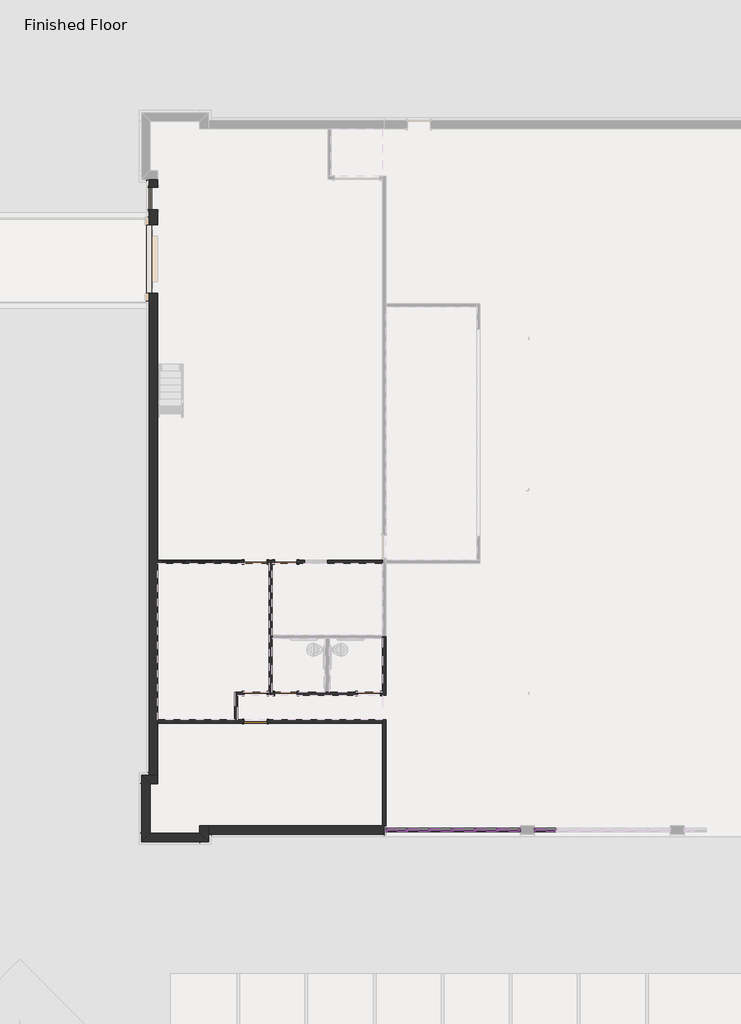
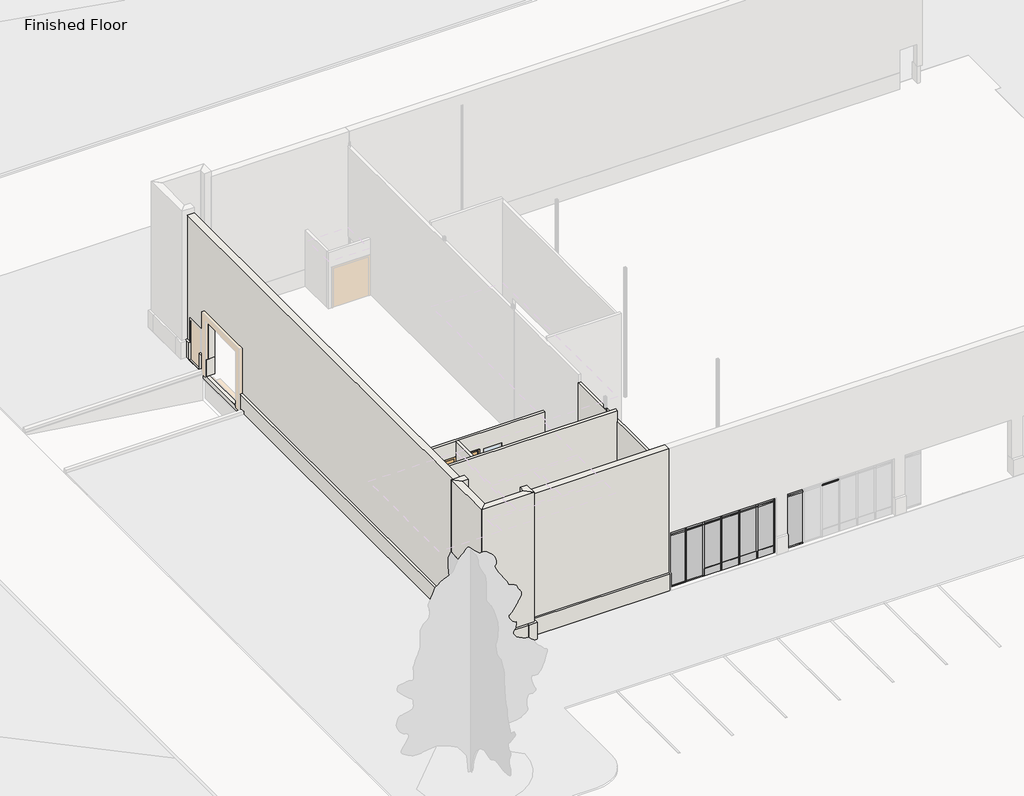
# One storey, part 1 of 7: 38 members, 21 walls, 14 plates, 6 doors, 3 windows.
"""IFC4 building model written with IfcOpenShell, lengths in millimetres."""

from ifc_helpers import new_model, si_unit, frame, origin, origin_with_axes, place, context, project, spatial, polyline, outline, extrude, faceted_brep, transform, mapped, element, save
from components import door_805e9a83, door_aa02eb04, door_9814c99b, member_d2e7e466, member_7db1855a, member_069002c8, member_a75f139a, member_8a16213d, member_a608d019, member_c17f1be2, member_ad567e07, member_f0d8dbf2, member_eb4c3d57, rectangular_mullion_tall_mullion_dc5872ae, rectangular_mullion_tall_mullion_643de06f, system_panel_glazed_00e77426, system_panel_glazed_d5ca8191, system_panel_glazed_9d8b6f53, system_panel_glazed_0eb5479c, system_panel_glazed_0c1d7574, system_panel_glazed_61942ae4, system_panel_glazed_5c8ca9a5, system_panel_glazed_895e459d, window_51f22951

model = new_model("IFC4")

# Units and contexts
model_context = context("Model", 3, world=origin())
ifc_project = project(units=[si_unit("LENGTHUNIT", "METRE", prefix="MILLI")], contexts=[model_context])

# Site, building, storey
site = spatial("IfcSite", under=ifc_project)
building = spatial("IfcBuilding", under=site)
storey = spatial("IfcBuildingStorey", under=building, Name="Finished Floor", Elevation=0.0)

# Doors
placement = place(None, origin())
door_shape = door_805e9a83(model_context)
element("IfcDoor", 1, ObjectType="Single-Flush : 36\" x 84\"", at=placement, inside=storey, context=model_context, shape_type="MappedRepresentation", body=[
    mapped(door_shape, transform((-16912.4352721, -8735.5875557, 0.0), x_axis=(-1.0, 0.0, 0.0), y_axis=(0.0, -1.0, 0.0), z_axis=(0.0, 0.0, 1.0))),
])
element("IfcDoor", 2, ObjectType="Single-Flush : 36\" x 84\"", at=placement, inside=storey, context=model_context, shape_type="MappedRepresentation", body=[
    mapped(door_shape, transform((-18131.6352721, -3439.6875557, 0.0), x_axis=(1.0, 0.0, 0.0), y_axis=(0.0, 1.0, 0.0), z_axis=(0.0, 0.0, 1.0))),
])
door_2_shape = door_aa02eb04(model_context)
element("IfcDoor", 3, ObjectType="Single-Flush : 36\" x 84\"", at=placement, inside=storey, context=model_context, shape_type="MappedRepresentation", body=[
    mapped(door_2_shape, transform((-13562.8102721, -8735.5875557, 0.0), x_axis=(1.0, 0.0, 0.0), y_axis=(0.0, 1.0, 0.0), z_axis=(0.0, 0.0, 1.0))),
])
element("IfcDoor", 4, ObjectType="Single-Flush : 36\" x 84\" 20Min", at=placement, inside=storey, context=model_context, shape_type="MappedRepresentation", body=[
    mapped(door_2_shape, transform((-18131.6352721, -8735.5875557, 0.0), x_axis=(1.0, 0.0, 0.0), y_axis=(0.0, 1.0, 0.0), z_axis=(0.0, 0.0, 1.0))),
])
element("IfcDoor", 5, ObjectType="Single-Flush : 36\" x 84\" 20Min", at=placement, inside=storey, context=model_context, shape_type="MappedRepresentation", body=[
    mapped(door_2_shape, transform((-16912.4352721, -3439.6875557, 0.0), x_axis=(-1.0, 0.0, 0.0), y_axis=(0.0, -1.0, 0.0), z_axis=(0.0, 0.0, 1.0))),
])
door_3_shape = door_9814c99b(model_context)
element("IfcDoor", 6, ObjectType="Single-Flush : 36\" x 84\" 20Min", at=placement, inside=storey, context=model_context, shape_type="MappedRepresentation", body=[
    mapped(door_3_shape, transform((-18131.6352721, -9862.7125557, 0.0), x_axis=(1.0, 0.0, 0.0), y_axis=(0.0, 1.0, 0.0), z_axis=(0.0, 0.0, 1.0))),
])

# Members
member_shape = member_d2e7e466(model_context)
element("IfcMember", 7, ObjectType="Rectangular Mullion : 2.5\" x 5\" rectangular", at=placement, inside=storey, context=model_context, shape_type="MappedRepresentation", body=[
    mapped(member_shape, transform((-9254.3352721, -14230.7188057, 3048.0), x_axis=(0.0, 0.0, 1.0), y_axis=(0.0, 1.0, 0.0), z_axis=(-1.0, 0.0, 0.0))),
])
element("IfcMember", 8, ObjectType="Rectangular Mullion : 2.5\" x 5\" rectangular", at=placement, inside=storey, context=model_context, shape_type="MappedRepresentation", body=[
    mapped(member_shape, transform((-10168.7352721, -14230.7188057, 3048.0), x_axis=(0.0, 0.0, 1.0), y_axis=(0.0, 1.0, 0.0), z_axis=(-1.0, 0.0, 0.0))),
])
element("IfcMember", 9, ObjectType="Rectangular Mullion : 2.5\" x 5\" rectangular", at=placement, inside=storey, context=model_context, shape_type="MappedRepresentation", body=[
    mapped(member_shape, transform((-11083.1352721, -14230.7188057, 3048.0), x_axis=(0.0, 0.0, 1.0), y_axis=(0.0, 1.0, 0.0), z_axis=(-1.0, 0.0, 0.0))),
])
element("IfcMember", 10, ObjectType="Rectangular Mullion : 2.5\" x 5\" rectangular", at=placement, inside=storey, context=model_context, shape_type="MappedRepresentation", body=[
    mapped(member_shape, transform((-11997.5352721, -14230.7188057, 3048.0), x_axis=(0.0, 0.0, 1.0), y_axis=(0.0, 1.0, 0.0), z_axis=(-1.0, 0.0, 0.0))),
])
member_2_shape = member_7db1855a(model_context)
element("IfcMember", 11, ObjectType="Rectangular Mullion : 2.5\" x 5\" rectangular", at=placement, inside=storey, context=model_context, shape_type="MappedRepresentation", body=[
    mapped(member_2_shape, transform((-9254.3352721, -14230.7188057, 2813.05), x_axis=(0.0, 0.0, 1.0), y_axis=(0.0, 1.0, 0.0), z_axis=(-1.0, 0.0, 0.0))),
])
element("IfcMember", 12, ObjectType="Rectangular Mullion : 2.5\" x 5\" rectangular", at=placement, inside=storey, context=model_context, shape_type="MappedRepresentation", body=[
    mapped(member_2_shape, transform((-10168.7352721, -14230.7188057, 2813.05), x_axis=(0.0, 0.0, 1.0), y_axis=(0.0, 1.0, 0.0), z_axis=(-1.0, 0.0, 0.0))),
])
element("IfcMember", 13, ObjectType="Rectangular Mullion : 2.5\" x 5\" rectangular", at=placement, inside=storey, context=model_context, shape_type="MappedRepresentation", body=[
    mapped(member_2_shape, transform((-11083.1352721, -14230.7188057, 2813.05), x_axis=(0.0, 0.0, 1.0), y_axis=(0.0, 1.0, 0.0), z_axis=(-1.0, 0.0, 0.0))),
])
element("IfcMember", 14, ObjectType="Rectangular Mullion : 2.5\" x 5\" rectangular", at=placement, inside=storey, context=model_context, shape_type="MappedRepresentation", body=[
    mapped(member_2_shape, transform((-5037.9352721, -14230.7188057, 2813.05), x_axis=(0.0, 0.0, 1.0), y_axis=(0.0, 1.0, 0.0), z_axis=(-1.0, 0.0, 0.0))),
])
element("IfcMember", 15, ObjectType="Rectangular Mullion : 2.5\" x 5\" rectangular", at=placement, inside=storey, context=model_context, shape_type="MappedRepresentation", body=[
    mapped(member_2_shape, transform((-11997.5352721, -14230.7188057, 2813.05), x_axis=(0.0, 0.0, 1.0), y_axis=(0.0, 1.0, 0.0), z_axis=(-1.0, 0.0, 0.0))),
])
element("IfcMember", 16, ObjectType="Rectangular Mullion : 2.5\" x 5\" rectangular", at=placement, inside=storey, context=model_context, shape_type="MappedRepresentation", body=[
    mapped(member_shape, transform((-11146.6352721, -14230.7188057, 0.0), x_axis=(0.0, 0.0, -1.0), y_axis=(0.0, 1.0, 0.0), z_axis=(1.0, 0.0, 0.0))),
])
member_3_shape = member_069002c8(model_context)
element("IfcMember", 17, ObjectType="Rectangular Mullion : 2.5\" x 5\" rectangular", at=placement, inside=storey, context=model_context, shape_type="MappedRepresentation", body=[
    mapped(member_3_shape, transform((-8371.6852721, -14230.7188057, 0.0), x_axis=(-1.0, 0.0, 0.0), y_axis=(0.0, 1.0, 0.0), z_axis=(0.0, 0.0, -1.0))),
])
element("IfcMember", 18, ObjectType="Rectangular Mullion : 2.5\" x 5\" rectangular", at=placement, inside=storey, context=model_context, shape_type="MappedRepresentation", body=[
    mapped(member_3_shape, transform((-9286.0852721, -14230.7188057, 0.0), x_axis=(-1.0, 0.0, 0.0), y_axis=(0.0, 1.0, 0.0), z_axis=(0.0, 0.0, -1.0))),
])
element("IfcMember", 19, ObjectType="Rectangular Mullion : 2.5\" x 5\" rectangular", at=placement, inside=storey, context=model_context, shape_type="MappedRepresentation", body=[
    mapped(member_3_shape, transform((-10200.4852721, -14230.7188057, 0.0), x_axis=(-1.0, 0.0, 0.0), y_axis=(0.0, 1.0, 0.0), z_axis=(0.0, 0.0, -1.0))),
])
element("IfcMember", 20, ObjectType="Rectangular Mullion : 2.5\" x 5\" rectangular", at=placement, inside=storey, context=model_context, shape_type="MappedRepresentation", body=[
    mapped(member_3_shape, transform((-11114.8852721, -14230.7188057, 0.0), x_axis=(-1.0, 0.0, 0.0), y_axis=(0.0, 1.0, 0.0), z_axis=(0.0, 0.0, -1.0))),
])
element("IfcMember", 21, ObjectType="Rectangular Mullion : 2.5\" x 5\" rectangular", at=placement, inside=storey, context=model_context, shape_type="MappedRepresentation", body=[
    mapped(member_3_shape, transform((-12029.2852721, -14230.7188057, 0.0), x_axis=(-1.0, 0.0, 0.0), y_axis=(0.0, 1.0, 0.0), z_axis=(0.0, 0.0, -1.0))),
])
member_4_shape = member_a75f139a(model_context)
element("IfcMember", 22, ObjectType="Rectangular Mullion : 2.5\" x 5\" rectangular", at=placement, inside=storey, context=model_context, shape_type="MappedRepresentation", body=[
    mapped(member_4_shape, transform((-8371.6852721, -14230.7188057, 2813.05), x_axis=(-1.0, 0.0, 0.0), y_axis=(0.0, 1.0, 0.0), z_axis=(0.0, 0.0, -1.0))),
])
element("IfcMember", 23, ObjectType="Rectangular Mullion : 2.5\" x 5\" rectangular", at=placement, inside=storey, context=model_context, shape_type="MappedRepresentation", body=[
    mapped(member_4_shape, transform((-9286.0852721, -14230.7188057, 2813.05), x_axis=(-1.0, 0.0, 0.0), y_axis=(0.0, 1.0, 0.0), z_axis=(0.0, 0.0, -1.0))),
])
element("IfcMember", 24, ObjectType="Rectangular Mullion : 2.5\" x 5\" rectangular", at=placement, inside=storey, context=model_context, shape_type="MappedRepresentation", body=[
    mapped(member_4_shape, transform((-10200.4852721, -14230.7188057, 2813.05), x_axis=(-1.0, 0.0, 0.0), y_axis=(0.0, 1.0, 0.0), z_axis=(0.0, 0.0, -1.0))),
])
element("IfcMember", 25, ObjectType="Rectangular Mullion : 2.5\" x 5\" rectangular", at=placement, inside=storey, context=model_context, shape_type="MappedRepresentation", body=[
    mapped(member_4_shape, transform((-11114.8852721, -14230.7188057, 2813.05), x_axis=(-1.0, 0.0, 0.0), y_axis=(0.0, 1.0, 0.0), z_axis=(0.0, 0.0, -1.0))),
])
element("IfcMember", 26, ObjectType="Rectangular Mullion : 2.5\" x 5\" rectangular", at=placement, inside=storey, context=model_context, shape_type="MappedRepresentation", body=[
    mapped(member_4_shape, transform((-12029.2852721, -14230.7188057, 2813.05), x_axis=(-1.0, 0.0, 0.0), y_axis=(0.0, 1.0, 0.0), z_axis=(0.0, 0.0, -1.0))),
])
member_5_shape = member_8a16213d(model_context)
element("IfcMember", 27, ObjectType="Rectangular Mullion : 2.5\" x 5\" rectangular", at=placement, inside=storey, context=model_context, shape_type="MappedRepresentation", body=[
    mapped(member_5_shape, transform((-12883.3602721, -14230.7188057, 0.0), x_axis=(-1.0, 0.0, 0.0), y_axis=(0.0, 1.0, 0.0), z_axis=(0.0, 0.0, -1.0))),
])
element("IfcMember", 28, ObjectType="Rectangular Mullion : 2.5\" x 5\" rectangular", at=placement, inside=storey, context=model_context, shape_type="MappedRepresentation", body=[
    mapped(member_5_shape, transform((-6898.4852721, -14230.7188057, 0.0), x_axis=(-1.0, 0.0, 0.0), y_axis=(0.0, 1.0, 0.0), z_axis=(0.0, 0.0, -1.0))),
])
member_6_shape = member_a608d019(model_context)
element("IfcMember", 29, ObjectType="Rectangular Mullion : 2.5\" x 5\" rectangular", at=placement, inside=storey, context=model_context, shape_type="MappedRepresentation", body=[
    mapped(member_6_shape, transform((-12883.3602721, -14230.7188057, 2813.05), x_axis=(-1.0, 0.0, 0.0), y_axis=(0.0, 1.0, 0.0), z_axis=(0.0, 0.0, -1.0))),
])
element("IfcMember", 30, ObjectType="Rectangular Mullion : 2.5\" x 5\" rectangular", at=placement, inside=storey, context=model_context, shape_type="MappedRepresentation", body=[
    mapped(member_6_shape, transform((-6898.4852721, -14230.7188057, 2813.05), x_axis=(-1.0, 0.0, 0.0), y_axis=(0.0, 1.0, 0.0), z_axis=(0.0, 0.0, -1.0))),
])
element("IfcMember", 31, ObjectType="Rectangular Mullion : 2.5\" x 5\" rectangular", at=placement, inside=storey, context=model_context, shape_type="MappedRepresentation", body=[
    mapped(member_6_shape, transform((-7457.2852721, -14230.7188057, 3048.0), x_axis=(1.0, 0.0, 0.0), y_axis=(0.0, 1.0, 0.0), z_axis=(0.0, 0.0, 1.0))),
])
element("IfcMember", 32, ObjectType="Rectangular Mullion : 2.5\" x 5\" rectangular", at=placement, inside=storey, context=model_context, shape_type="MappedRepresentation", body=[
    mapped(member_5_shape, transform((-7457.2852721, -14230.7188057, 2813.05), x_axis=(1.0, 0.0, 0.0), y_axis=(0.0, 1.0, 0.0), z_axis=(0.0, 0.0, 1.0))),
])
member_7_shape = member_c17f1be2(model_context)
element("IfcMember", 33, ObjectType="Rectangular Mullion : 2.5\" x 5\" rectangular", at=placement, inside=storey, context=model_context, shape_type="MappedRepresentation", body=[
    mapped(member_7_shape, transform((-8339.9352721, -14230.7188057, 3048.0), x_axis=(0.0, 0.0, 1.0), y_axis=(0.0, 1.0, 0.0), z_axis=(-1.0, 0.0, 0.0))),
])
element("IfcMember", 34, ObjectType="Rectangular Mullion : 2.5\" x 5\" rectangular", at=placement, inside=storey, context=model_context, shape_type="MappedRepresentation", body=[
    mapped(member_7_shape, transform((-6834.9852721, -14230.7188057, 3048.0), x_axis=(0.0, 0.0, 1.0), y_axis=(0.0, 1.0, 0.0), z_axis=(-1.0, 0.0, 0.0))),
])
member_8_shape = member_ad567e07(model_context)
element("IfcMember", 35, ObjectType="Rectangular Mullion : 2.5\" x 5\" rectangular", at=placement, inside=storey, context=model_context, shape_type="MappedRepresentation", body=[
    mapped(member_8_shape, transform((-8339.9352721, -14230.7188057, 2813.05), x_axis=(0.0, 0.0, 1.0), y_axis=(0.0, 1.0, 0.0), z_axis=(-1.0, 0.0, 0.0))),
])
element("IfcMember", 36, ObjectType="Rectangular Mullion : 2.5\" x 5\" rectangular", at=placement, inside=storey, context=model_context, shape_type="MappedRepresentation", body=[
    mapped(member_8_shape, transform((-6834.9852721, -14230.7188057, 2813.05), x_axis=(0.0, 0.0, 1.0), y_axis=(0.0, 1.0, 0.0), z_axis=(-1.0, 0.0, 0.0))),
])
element("IfcMember", 37, ObjectType="Rectangular Mullion : 2.5\" x 5\" rectangular", at=placement, inside=storey, context=model_context, shape_type="MappedRepresentation", body=[
    mapped(member_7_shape, transform((-6015.8352721, -14230.7188057, 0.0), x_axis=(0.0, 0.0, -1.0), y_axis=(0.0, 1.0, 0.0), z_axis=(1.0, 0.0, 0.0))),
])
member_9_shape = member_f0d8dbf2(model_context)
element("IfcMember", 38, ObjectType="Rectangular Mullion : 2.5\" x 5\" rectangular", at=placement, inside=storey, context=model_context, shape_type="MappedRepresentation", body=[
    mapped(member_9_shape, transform((-12819.8602721, -14230.7188057, 3048.0), x_axis=(0.0, 0.0, 1.0), y_axis=(0.0, 1.0, 0.0), z_axis=(-1.0, 0.0, 0.0))),
])
element("IfcMember", 39, ObjectType="Rectangular Mullion : 2.5\" x 5\" rectangular", at=placement, inside=storey, context=model_context, shape_type="MappedRepresentation", body=[
    mapped(member_9_shape, transform((-12061.0352721, -14230.7188057, 0.0), x_axis=(0.0, 0.0, -1.0), y_axis=(0.0, 1.0, 0.0), z_axis=(1.0, 0.0, 0.0))),
])
member_10_shape = member_eb4c3d57(model_context)
element("IfcMember", 40, ObjectType="Rectangular Mullion : 2.5\" x 5\" rectangular", at=placement, inside=storey, context=model_context, shape_type="MappedRepresentation", body=[
    mapped(member_10_shape, transform((-12819.8602721, -14230.7188057, 2813.05), x_axis=(0.0, 0.0, 1.0), y_axis=(0.0, 1.0, 0.0), z_axis=(-1.0, 0.0, 0.0))),
])
rectangular_mullion_tall_mullion_shape = rectangular_mullion_tall_mullion_dc5872ae(model_context)
element("IfcMember", 41, ObjectType="Rectangular Mullion : Tall Mullion", at=placement, inside=storey, context=model_context, shape_type="MappedRepresentation", body=[
    mapped(rectangular_mullion_tall_mullion_shape, transform((-8403.4352721, -14230.7188057, 0.0), x_axis=(0.0, 0.0, -1.0), y_axis=(0.0, 1.0, 0.0), z_axis=(1.0, 0.0, 0.0))),
])
element("IfcMember", 42, ObjectType="Rectangular Mullion : Tall Mullion", at=placement, inside=storey, context=model_context, shape_type="MappedRepresentation", body=[
    mapped(rectangular_mullion_tall_mullion_shape, transform((-9317.8352721, -14230.7188057, 0.0), x_axis=(0.0, 0.0, -1.0), y_axis=(0.0, 1.0, 0.0), z_axis=(1.0, 0.0, 0.0))),
])
element("IfcMember", 43, ObjectType="Rectangular Mullion : Tall Mullion", at=placement, inside=storey, context=model_context, shape_type="MappedRepresentation", body=[
    mapped(rectangular_mullion_tall_mullion_shape, transform((-10232.2352721, -14230.7188057, 0.0), x_axis=(0.0, 0.0, -1.0), y_axis=(0.0, 1.0, 0.0), z_axis=(1.0, 0.0, 0.0))),
])
rectangular_mullion_tall_mullion_2_shape = rectangular_mullion_tall_mullion_643de06f(model_context)
element("IfcMember", 44, ObjectType="Rectangular Mullion : Tall Mullion", at=placement, inside=storey, context=model_context, shape_type="MappedRepresentation", body=[
    mapped(rectangular_mullion_tall_mullion_2_shape, transform((-7520.7852721, -14230.7188057, 0.0), x_axis=(0.0, 0.0, -1.0), y_axis=(0.0, 1.0, 0.0), z_axis=(1.0, 0.0, 0.0))),
])

# Plates
system_panel_glazed_shape = system_panel_glazed_00e77426(model_context)
element("IfcPlate", 45, ObjectType="System Panel : Glazed", at=placement, inside=storey, context=model_context, shape_type="MappedRepresentation", body=[
    mapped(system_panel_glazed_shape, transform((-8828.8852721, -14230.7188057, 406.4), x_axis=(-1.0, 0.0, 0.0), y_axis=(0.0, -1.0, 0.0), z_axis=(0.0, 0.0, 1.0))),
])
element("IfcPlate", 46, ObjectType="System Panel : Glazed", at=placement, inside=storey, context=model_context, shape_type="MappedRepresentation", body=[
    mapped(system_panel_glazed_shape, transform((-9743.2852721, -14230.7188057, 406.4), x_axis=(-1.0, 0.0, 0.0), y_axis=(0.0, -1.0, 0.0), z_axis=(0.0, 0.0, 1.0))),
])
element("IfcPlate", 47, ObjectType="System Panel : Glazed", at=placement, inside=storey, context=model_context, shape_type="MappedRepresentation", body=[
    mapped(system_panel_glazed_shape, transform((-10657.6852721, -14230.7188057, 406.4), x_axis=(-1.0, 0.0, 0.0), y_axis=(0.0, -1.0, 0.0), z_axis=(0.0, 0.0, 1.0))),
])
system_panel_glazed_2_shape = system_panel_glazed_d5ca8191(model_context)
element("IfcPlate", 48, ObjectType="System Panel : Glazed", at=placement, inside=storey, context=model_context, shape_type="MappedRepresentation", body=[
    mapped(system_panel_glazed_2_shape, transform((-8828.8852721, -14230.7188057, 2844.8), x_axis=(-1.0, 0.0, 0.0), y_axis=(0.0, -1.0, 0.0), z_axis=(0.0, 0.0, 1.0))),
])
element("IfcPlate", 49, ObjectType="System Panel : Glazed", at=placement, inside=storey, context=model_context, shape_type="MappedRepresentation", body=[
    mapped(system_panel_glazed_2_shape, transform((-9743.2852721, -14230.7188057, 2844.8), x_axis=(-1.0, 0.0, 0.0), y_axis=(0.0, -1.0, 0.0), z_axis=(0.0, 0.0, 1.0))),
])
element("IfcPlate", 50, ObjectType="System Panel : Glazed", at=placement, inside=storey, context=model_context, shape_type="MappedRepresentation", body=[
    mapped(system_panel_glazed_2_shape, transform((-10657.6852721, -14230.7188057, 2844.8), x_axis=(-1.0, 0.0, 0.0), y_axis=(0.0, -1.0, 0.0), z_axis=(0.0, 0.0, 1.0))),
])
element("IfcPlate", 51, ObjectType="System Panel : Glazed", at=placement, inside=storey, context=model_context, shape_type="MappedRepresentation", body=[
    mapped(system_panel_glazed_2_shape, transform((-11572.0852721, -14230.7188057, 2844.8), x_axis=(-1.0, 0.0, 0.0), y_axis=(0.0, -1.0, 0.0), z_axis=(0.0, 0.0, 1.0))),
])
system_panel_glazed_3_shape = system_panel_glazed_9d8b6f53(model_context)
element("IfcPlate", 52, ObjectType="System Panel : Glazed", at=placement, inside=storey, context=model_context, shape_type="MappedRepresentation", body=[
    mapped(system_panel_glazed_3_shape, transform((-11572.0852721, -14230.7188057, 63.5), x_axis=(-1.0, 0.0, 0.0), y_axis=(0.0, -1.0, 0.0), z_axis=(0.0, 0.0, 1.0))),
])
system_panel_glazed_4_shape = system_panel_glazed_0eb5479c(model_context)
element("IfcPlate", 53, ObjectType="System Panel : Glazed", at=placement, inside=storey, context=model_context, shape_type="MappedRepresentation", body=[
    mapped(system_panel_glazed_4_shape, transform((-7930.3602721, -14230.7188057, 406.4), x_axis=(-1.0, 0.0, 0.0), y_axis=(0.0, -1.0, 0.0), z_axis=(0.0, 0.0, 1.0))),
])
system_panel_glazed_5_shape = system_panel_glazed_0c1d7574(model_context)
element("IfcPlate", 54, ObjectType="System Panel : Glazed", at=placement, inside=storey, context=model_context, shape_type="MappedRepresentation", body=[
    mapped(system_panel_glazed_5_shape, transform((-7930.3602721, -14230.7188057, 2844.8), x_axis=(-1.0, 0.0, 0.0), y_axis=(0.0, -1.0, 0.0), z_axis=(0.0, 0.0, 1.0))),
])
element("IfcPlate", 55, ObjectType="System Panel : Glazed", at=placement, inside=storey, context=model_context, shape_type="MappedRepresentation", body=[
    mapped(system_panel_glazed_5_shape, transform((-6425.4102721, -14230.7188057, 2844.8), x_axis=(-1.0, 0.0, 0.0), y_axis=(0.0, -1.0, 0.0), z_axis=(0.0, 0.0, 1.0))),
])
system_panel_glazed_6_shape = system_panel_glazed_61942ae4(model_context)
element("IfcPlate", 56, ObjectType="System Panel : Glazed", at=placement, inside=storey, context=model_context, shape_type="MappedRepresentation", body=[
    mapped(system_panel_glazed_6_shape, transform((-6425.4102721, -14230.7188057, 63.5), x_axis=(-1.0, 0.0, 0.0), y_axis=(0.0, -1.0, 0.0), z_axis=(0.0, 0.0, 1.0))),
])
system_panel_glazed_7_shape = system_panel_glazed_5c8ca9a5(model_context)
element("IfcPlate", 57, ObjectType="System Panel : Glazed", at=placement, inside=storey, context=model_context, shape_type="MappedRepresentation", body=[
    mapped(system_panel_glazed_7_shape, transform((-12440.4477721, -14230.7188057, 63.5), x_axis=(-1.0, 0.0, 0.0), y_axis=(0.0, -1.0, 0.0), z_axis=(0.0, 0.0, 1.0))),
])
system_panel_glazed_8_shape = system_panel_glazed_895e459d(model_context)
element("IfcPlate", 58, ObjectType="System Panel : Glazed", at=placement, inside=storey, context=model_context, shape_type="MappedRepresentation", body=[
    mapped(system_panel_glazed_8_shape, transform((-12440.4477721, -14230.7188057, 2844.8), x_axis=(-1.0, 0.0, 0.0), y_axis=(0.0, -1.0, 0.0), z_axis=(0.0, 0.0, 1.0))),
])

# Walls
element("IfcWall", 59, ObjectType="Exterior - Brick on Mtl. Stud", at=placement, inside=storey, context=model_context, shape_type="Brep", body=[
    faceted_brep([(-12953.2102721, -14054.5063057, 7620.0), (-12953.2102721, -14054.5063057, 914.4), (-20031.8727721, -14054.5063057, 914.4), (-20031.8727721, -14054.5063057, 7620.0), (-12953.2102721, -14406.9313057, 914.4), (-12953.2102721, -14406.9313057, 7620.0), (-20031.8727721, -14406.9313057, 7620.0), (-20031.8727721, -14406.9313057, 914.4), (-12953.2102721, -14397.4063057, 914.4)], [[[0, 1, 2, 3]], [[4, 5, 6, 7]], [[2, 1, 8, 4, 7]], [[3, 2, 7, 6]], [[0, 3, 6, 5]], [[0, 5, 4, 8, 1]]]),
])
element("IfcWall", 60, ObjectType="Exterior - Brick on Mtl. Stud", at=placement, inside=storey, context=model_context, shape_type="SweptSolid", body=[
    extrude(outline(polyline([(-20384.2977721, -14359.3063057), (-20384.2977721, -14054.5063057), (-20031.8727721, -14054.5063057), (-20031.8727721, -14711.7313057), (-20384.2977721, -14359.3063057)])), frame((0.0, 0.0, 914.4), z_axis=(0.0, 0.0, 1.0), x_axis=(1.0, 0.0, 0.0)), (0.0, 0.0, 1.0), 7010.4),
])
element("IfcWall", 61, ObjectType="Exterior - Brick on Mtl. Stud", at=placement, inside=storey, context=model_context, shape_type="SweptSolid", body=[
    extrude(outline(polyline([(-22371.8477721, -14359.3063057), (-20384.2977721, -14359.3063057), (-20031.8727721, -14711.7313057), (-22724.2727721, -14711.7313057), (-22371.8477721, -14359.3063057)])), frame((0.0, 0.0, 914.4), z_axis=(0.0, 0.0, 1.0), x_axis=(1.0, 0.0, 0.0)), (0.0, 0.0, 1.0), 7010.4),
])
element("IfcWall", 62, ObjectType="Exterior - Brick on Mtl. Stud", at=placement, inside=storey, context=model_context, shape_type="SweptSolid", body=[
    extrude(outline(polyline([(-22371.8477721, -12371.7563057), (-22371.8477721, -14359.3063057), (-22724.2727721, -14711.7313057), (-22724.2727721, -12019.3313057), (-22371.8477721, -12371.7563057)])), frame((0.0, 0.0, 914.4), z_axis=(0.0, 0.0, 1.0), x_axis=(1.0, 0.0, 0.0)), (0.0, 0.0, 1.0), 7010.4),
])
element("IfcWall", 63, ObjectType="Exterior - Brick on Mtl. Stud", at=placement, inside=storey, context=model_context, shape_type="SweptSolid", body=[
    extrude(outline(polyline([(-22067.0477721, -12371.7563057), (-22371.8477721, -12371.7563057), (-22724.2727721, -12019.3313057), (-22067.0477721, -12019.3313057), (-22067.0477721, -12371.7563057)])), frame((0.0, 0.0, 914.4), z_axis=(0.0, 0.0, 1.0), x_axis=(1.0, 0.0, 0.0)), (0.0, 0.0, 1.0), 7010.4),
])
element("IfcWall", 64, ObjectType="Exterior - Brick on Mtl. Stud", at=placement, inside=storey, context=model_context, shape_type="SweptSolid", body=[
    extrude(outline(polyline([(11958.2686943, 7620.0), (11958.2686943, 914.4), (11653.4686943, 914.4), (11653.4686943, 2133.6), (10739.0686943, 2133.6), (10739.0686943, 914.4), (10129.4686943, 914.4), (10129.4686943, 3048.0), (7386.2686943, 3048.0), (7386.2686943, 914.4), (-12019.3313057, 914.4), (-12019.3313057, 7620.0), (11958.2686943, 7620.0)])), frame((-22419.4727721, 0.0, 0.0), z_axis=(1.0, 0.0, 0.0), x_axis=(0.0, 1.0, 0.0)), (0.0, 0.0, 1.0), 352.425),
])
element("IfcWall", 65, ObjectType="Exterior - CMU on Mtl. Stud", at=placement, inside=storey, context=model_context, shape_type="Brep", body=[
    faceted_brep([(-12953.2102721, -14054.5063057, 0.0), (-13023.0602721, -14054.5063057, 0.0), (-20031.8727721, -14054.5063057, 0.0), (-20031.8727721, -14054.5063057, 914.4), (-12953.2102721, -14054.5063057, 914.4), (-12953.2102721, -14508.5313057, 0.0), (-12953.2102721, -14508.5313057, 914.4), (-20031.8727721, -14508.5313057, 914.4), (-20031.8727721, -14508.5313057, 0.0), (-20031.8727721, -14314.8563057, 0.0), (-20031.8727721, -14406.9313057, 914.4), (-20031.8727721, -14397.4063057, 914.4), (-12953.2102721, -14406.9313057, 914.4), (-12953.2102721, -14397.4063057, 914.4), (-12953.2102721, -14314.8563057, 0.0)], [[[0, 1, 2, 3, 4]], [[5, 6, 7, 8]], [[3, 2, 9, 8, 7, 10, 11]], [[4, 3, 11, 10, 7, 6, 12, 13]], [[0, 4, 13, 12, 6, 5, 14]], [[2, 1, 0, 14, 9]], [[14, 5, 8, 9]]]),
])
element("IfcWall", 66, ObjectType="Exterior - CMU on Mtl. Stud", at=placement, inside=storey, context=model_context, shape_type="Brep", body=[
    faceted_brep([(-20384.2977721, -14054.5063057, 0.0), (-20384.2977721, -14359.3063057, 0.0), (-20384.2977721, -14813.3313057, 0.0), (-20384.2977721, -14813.3313057, 914.4), (-20384.2977721, -14359.3063057, 914.4), (-20384.2977721, -14054.5063057, 914.4), (-19930.2727721, -14054.5063057, 0.0), (-19930.2727721, -14054.5063057, 914.4), (-19930.2727721, -14813.3313057, 914.4), (-19930.2727721, -14813.3313057, 0.0), (-20031.8727721, -14054.5063057, 914.4), (-20041.3977721, -14054.5063057, 914.4), (-20123.9477721, -14054.5063057, 0.0), (-20123.9477721, -14813.3313057, 0.0)], [[[0, 1, 2, 3, 4, 5]], [[6, 7, 8, 9]], [[5, 4, 3, 8, 7, 10, 11]], [[0, 5, 11, 10, 7, 6, 12]], [[3, 2, 13, 9, 8]], [[2, 1, 0, 12, 13]], [[12, 6, 9, 13]]]),
])
element("IfcWall", 67, ObjectType="Exterior - CMU on Mtl. Stud", at=placement, inside=storey, context=model_context, shape_type="Brep", body=[
    faceted_brep([(-20384.2977721, -14359.3063057, 0.0), (-22371.8477721, -14359.3063057, 0.0), (-22825.8727721, -14359.3063057, 0.0), (-22825.8727721, -14359.3063057, 914.4), (-22371.8477721, -14359.3063057, 914.4), (-20384.2977721, -14359.3063057, 914.4), (-20384.2977721, -14813.3313057, 0.0), (-20384.2977721, -14813.3313057, 914.4), (-22825.8727721, -14813.3313057, 914.4), (-22825.8727721, -14813.3313057, 0.0), (-20384.2977721, -14619.6563057, 0.0), (-22825.8727721, -14619.6563057, 0.0)], [[[0, 1, 2, 3, 4, 5]], [[6, 7, 8, 9]], [[5, 4, 3, 8, 7]], [[0, 5, 7, 6, 10]], [[3, 2, 11, 9, 8]], [[2, 1, 0, 10, 11]], [[10, 6, 9, 11]]]),
])
element("IfcWall", 68, ObjectType="Exterior - CMU on Mtl. Stud", at=placement, inside=storey, context=model_context, shape_type="SweptSolid", body=[
    extrude(outline(polyline([(0.0, -22371.8477721), (914.4, -22371.8477721), (914.4, -22825.8727721), (0.0, -22825.8727721), (0.0, -22632.1977721), (0.0, -22371.8477721)])), frame((0.0, -14359.3063057, 0.0), z_axis=(0.0, 1.0, 0.0), x_axis=(0.0, 0.0, 1.0)), (0.0, 0.0, 1.0), 1987.55),
])
element("IfcWall", 69, ObjectType="Exterior - CMU on Mtl. Stud", at=placement, inside=storey, context=model_context, shape_type="Brep", body=[
    faceted_brep([(-22825.8727721, -12371.7563057, 0.0), (-22371.8477721, -12371.7563057, 0.0), (-22067.0477721, -12371.7563057, 0.0), (-22067.0477721, -12371.7563057, 914.4), (-22371.8477721, -12371.7563057, 914.4), (-22825.8727721, -12371.7563057, 914.4), (-22825.8727721, -11917.7313057, 0.0), (-22825.8727721, -11917.7313057, 914.4), (-22067.0477721, -11917.7313057, 914.4), (-22067.0477721, -11917.7313057, 0.0), (-22067.0477721, -12111.4063057, 0.0), (-22067.0477721, -12019.3313057, 914.4), (-22067.0477721, -12028.8563057, 914.4), (-22825.8727721, -12111.4063057, 0.0)], [[[0, 1, 2, 3, 4, 5]], [[6, 7, 8, 9]], [[3, 2, 10, 9, 8, 11, 12]], [[5, 4, 3, 12, 11, 8, 7]], [[0, 5, 7, 6, 13]], [[2, 1, 0, 13, 10]], [[13, 6, 9, 10]]]),
])
element("IfcWall", 70, ObjectType="Exterior - CMU on Mtl. Stud", at=placement, inside=storey, context=model_context, shape_type="Brep", body=[
    faceted_brep([(-22067.0477721, 11958.2686943, 0.0), (-22067.0477721, 11958.2686943, 914.4), (-22067.0477721, 11653.4686943, 914.4), (-22067.0477721, 11653.4686943, 0.0), (-22067.0477721, -12019.3313057, 914.4), (-22067.0477721, -12019.3313057, 0.0), (-22067.0477721, -9932.5625557, 0.0), (-22067.0477721, -9792.8625557, 0.0), (-22067.0477721, -3500.0125557, 0.0), (-22067.0477721, -3379.3625557, 0.0), (-22067.0477721, 7386.2686943, 0.0), (-22067.0477721, 7386.2686943, 914.4), (-22067.0477721, 10739.0686943, 0.0), (-22067.0477721, 10739.0686943, 914.4), (-22067.0477721, 10129.4686943, 914.4), (-22067.0477721, 10129.4686943, 0.0), (-22521.0727721, 11958.2686943, 914.4), (-22521.0727721, 11958.2686943, -203.2), (-22521.0727721, -12019.3313057, -203.2), (-22521.0727721, -12019.3313057, 914.4), (-22521.0727721, 7386.2686943, 914.4), (-22521.0727721, 7386.2686943, 0.0), (-22521.0727721, 10129.4686943, 0.0), (-22521.0727721, 10129.4686943, 914.4), (-22521.0727721, 10739.0686943, 914.4), (-22521.0727721, 10739.0686943, 0.0), (-22521.0727721, 11653.4686943, 0.0), (-22521.0727721, 11653.4686943, 914.4), (-22327.3977721, 11958.2686943, 0.0), (-22327.3977721, 11958.2686943, -203.2), (-22419.4727721, 11958.2686943, 914.4), (-22409.9477721, 11958.2686943, 914.4), (-22419.4727721, -12019.3313057, 914.4), (-22409.9477721, -12019.3313057, 914.4), (-22409.9477721, 7386.2686943, 914.4), (-22419.4727721, 7386.2686943, 914.4), (-22419.4727721, 11653.4686943, 914.4), (-22409.9477721, 11653.4686943, 914.4), (-22409.9477721, 10739.0686943, 914.4), (-22419.4727721, 10739.0686943, 914.4), (-22419.4727721, 10129.4686943, 914.4), (-22409.9477721, 10129.4686943, 914.4), (-22327.3977721, -12019.3313057, -203.2), (-22327.3977721, -12019.3313057, 0.0), (-22327.3977721, 10739.0686943, 0.0), (-22327.3977721, 11653.4686943, 0.0), (-22327.3977721, 7386.2686943, 0.0), (-22327.3977721, 10129.4686943, 0.0)], [[[0, 1, 2, 3]], [[4, 5, 6, 7, 8, 9, 10, 11]], [[12, 13, 14, 15]], [[16, 17, 18, 19, 20, 21, 22, 23, 24, 25, 26, 27]], [[1, 0, 28, 29, 17, 16, 30, 31]], [[19, 32, 33, 4, 11, 34, 35, 20]], [[1, 31, 30, 16, 27, 36, 37, 2]], [[13, 38, 39, 24, 23, 40, 41, 14]], [[5, 4, 33, 32, 19, 18, 42, 43]], [[26, 25, 44, 45]], [[3, 2, 37, 36, 27, 26, 45]], [[13, 12, 44, 25, 24, 39, 38]], [[46, 21, 20, 35, 34, 11, 10]], [[22, 47, 15, 14, 41, 40, 23]], [[21, 46, 47, 22]], [[0, 3, 45, 28]], [[5, 43, 46, 10, 9, 8, 7, 6]], [[44, 12, 15, 47]], [[43, 42, 29, 28, 45, 44, 47, 46]], [[42, 18, 17, 29]]]),
])
element("IfcWall", 71, ObjectType="Interior - 5 1/2\" Partition", at=placement, inside=storey, context=model_context, shape_type="Brep", body=[
    faceted_brep([(-13105.6102721, -8795.9125557, 2133.6), (-13105.6102721, -8795.9125557, 0.0), (-13023.0602721, -8795.9125557, 0.0), (-13023.0602721, -8795.9125557, 2133.6), (-13023.0602721, -8795.9125557, 3048.0), (-15156.6602721, -8795.9125557, 3048.0), (-15156.6602721, -8795.9125557, 0.0), (-14020.0102721, -8795.9125557, 0.0), (-14020.0102721, -8795.9125557, 2133.6), (-13023.0602721, -8675.2625557, 0.0), (-13105.6102721, -8675.2625557, 0.0), (-13105.6102721, -8675.2625557, 2133.6), (-14020.0102721, -8675.2625557, 2133.6), (-14020.0102721, -8675.2625557, 0.0), (-15156.6602721, -8675.2625557, 0.0), (-15156.6602721, -8675.2625557, 3048.0), (-13023.0602721, -8675.2625557, 3048.0)], [[[0, 1, 2, 3, 4, 5, 6, 7, 8]], [[9, 10, 11, 12, 13, 14, 15, 16]], [[7, 6, 14, 13]], [[2, 1, 10, 9]], [[5, 4, 16, 15]], [[6, 5, 15, 14]], [[11, 10, 1, 0]], [[12, 11, 0, 8]], [[13, 12, 8, 7]], [[2, 9, 16, 4, 3]]]),
])
element("IfcWall", 72, ObjectType="Interior - 5 1/2\" Partition", at=placement, inside=storey, context=model_context, shape_type="Brep", body=[
    faceted_brep([(-17582.3602721, -3500.0125557, 0.0), (-17582.3602721, -6525.7875557, 0.0), (-17582.3602721, -6525.7875557, 3048.0), (-17582.3602721, -3500.0125557, 3048.0), (-17461.7102721, -3500.0125557, 0.0), (-17461.7102721, -3500.0125557, 3048.0), (-17461.7102721, -6395.6125557, 3048.0), (-17461.7102721, -6516.2625557, 3048.0), (-17461.7102721, -6525.7875557, 3048.0), (-17461.7102721, -6525.7875557, 0.0), (-17461.7102721, -6516.2625557, 0.0), (-17461.7102721, -6395.6125557, 0.0)], [[[0, 1, 2, 3]], [[4, 5, 6, 7, 8, 9, 10, 11]], [[1, 0, 4, 11, 10, 9]], [[2, 1, 9, 8]], [[3, 2, 8, 7, 6, 5]], [[0, 3, 5, 4]]]),
])
element("IfcWall", 73, ObjectType="Interior - 5 1/2\" Partition", at=placement, inside=storey, context=model_context, shape_type="Brep", body=[
    faceted_brep([(-17369.6352721, -8675.2625557, 2133.6), (-17369.6352721, -8675.2625557, 0.0), (-17461.7102721, -8675.2625557, 0.0), (-17522.0352721, -8675.2625557, 0.0), (-17522.0352721, -8675.2625557, 3048.0), (-17461.7102721, -8675.2625557, 3048.0), (-15328.1102721, -8675.2625557, 3048.0), (-15156.6602721, -8675.2625557, 3048.0), (-15156.6602721, -8675.2625557, 0.0), (-15328.1102721, -8675.2625557, 0.0), (-16455.2352721, -8675.2625557, 0.0), (-16455.2352721, -8675.2625557, 2133.6), (-17522.0352721, -8795.9125557, 0.0), (-17369.6352721, -8795.9125557, 0.0), (-17369.6352721, -8795.9125557, 2133.6), (-16455.2352721, -8795.9125557, 2133.6), (-16455.2352721, -8795.9125557, 0.0), (-15156.6602721, -8795.9125557, 0.0), (-15156.6602721, -8795.9125557, 3048.0), (-17522.0352721, -8795.9125557, 3048.0)], [[[0, 1, 2, 3, 4, 5, 6, 7, 8, 9, 10, 11]], [[12, 13, 14, 15, 16, 17, 18, 19]], [[10, 9, 8, 17, 16]], [[3, 2, 1, 13, 12]], [[4, 3, 12, 19]], [[7, 6, 5, 4, 19, 18]], [[8, 7, 18, 17]], [[14, 13, 1, 0]], [[15, 14, 0, 11]], [[16, 15, 11, 10]]]),
])
element("IfcWall", 74, ObjectType="Interior - 5 1/2\" Partition", at=placement, inside=storey, context=model_context, shape_type="SweptSolid", body=[
    extrude(outline(polyline([(-18979.3602721, -9792.8625557), (-18979.3602721, -8795.9125557), (-18858.7102721, -8795.9125557), (-18858.7102721, -9792.8625557), (-18979.3602721, -9792.8625557)])), origin_with_axes(), (0.0, 0.0, 1.0), 3048.0),
])
element("IfcWall", 75, ObjectType="Interior - 5 1/2\" Partition", at=placement, inside=storey, context=model_context, shape_type="Brep", body=[
    faceted_brep([(-17674.4352721, -3500.0125557, 0.0), (-17582.3602721, -3500.0125557, 0.0), (-17461.7102721, -3500.0125557, 0.0), (-17369.6352721, -3500.0125557, 0.0), (-17369.6352721, -3500.0125557, 2133.6), (-16455.2352721, -3500.0125557, 2133.6), (-16455.2352721, -3500.0125557, 0.0), (-13023.0602721, -3500.0125557, 0.0), (-13023.0602721, -3500.0125557, 3048.0), (-17461.7102721, -3500.0125557, 3048.0), (-17582.3602721, -3500.0125557, 3048.0), (-22067.0477721, -3500.0125557, 3048.0), (-22067.0477721, -3500.0125557, 0.0), (-18588.8352721, -3500.0125557, 0.0), (-18588.8352721, -3500.0125557, 2133.6), (-17674.4352721, -3500.0125557, 2133.6), (-20974.8477721, -3500.0125557, 2133.6), (-20974.8477721, -3500.0125557, 914.4), (-21889.2477721, -3500.0125557, 914.4), (-21889.2477721, -3500.0125557, 2133.6), (-19882.6477721, -3500.0125557, 2133.6), (-19882.6477721, -3500.0125557, 914.4), (-20797.0477721, -3500.0125557, 914.4), (-20797.0477721, -3500.0125557, 2133.6), (-18778.5415221, -3500.0125557, 2133.6), (-18778.5415221, -3500.0125557, 914.4), (-19692.9415221, -3500.0125557, 914.4), (-19692.9415221, -3500.0125557, 2133.6), (-15236.0352721, -3500.0125557, 2133.6), (-15236.0352721, -3500.0125557, 914.4), (-16150.4352721, -3500.0125557, 914.4), (-16150.4352721, -3500.0125557, 2133.6), (-17369.6352721, -3379.3625557, 2133.6), (-17369.6352721, -3379.3625557, 0.0), (-17674.4352721, -3379.3625557, 0.0), (-17674.4352721, -3379.3625557, 2133.6), (-18588.8352721, -3379.3625557, 2133.6), (-18588.8352721, -3379.3625557, 0.0), (-22067.0477721, -3379.3625557, 0.0), (-22067.0477721, -3379.3625557, 3048.0), (-13023.0602721, -3379.3625557, 3048.0), (-13023.0602721, -3379.3625557, 0.0), (-16455.2352721, -3379.3625557, 0.0), (-16455.2352721, -3379.3625557, 2133.6), (-20974.8477721, -3379.3625557, 2133.6), (-21889.2477721, -3379.3625557, 2133.6), (-21889.2477721, -3379.3625557, 914.4), (-20974.8477721, -3379.3625557, 914.4), (-19882.6477721, -3379.3625557, 2133.6), (-20797.0477721, -3379.3625557, 2133.6), (-20797.0477721, -3379.3625557, 914.4), (-19882.6477721, -3379.3625557, 914.4), (-18778.5415221, -3379.3625557, 2133.6), (-19692.9415221, -3379.3625557, 2133.6), (-19692.9415221, -3379.3625557, 914.4), (-18778.5415221, -3379.3625557, 914.4), (-15236.0352721, -3379.3625557, 2133.6), (-16150.4352721, -3379.3625557, 2133.6), (-16150.4352721, -3379.3625557, 914.4), (-15236.0352721, -3379.3625557, 914.4)], [[[0, 1, 2, 3, 4, 5, 6, 7, 8, 9, 10, 11, 12, 13, 14, 15], [16, 17, 18, 19], [20, 21, 22, 23], [24, 25, 26, 27], [28, 29, 30, 31]], [[32, 33, 34, 35, 36, 37, 38, 39, 40, 41, 42, 43], [44, 45, 46, 47], [48, 49, 50, 51], [52, 53, 54, 55], [56, 57, 58, 59]], [[13, 12, 38, 37]], [[42, 41, 7, 6]], [[34, 33, 3, 2, 1, 0]], [[11, 10, 9, 8, 40, 39]], [[8, 7, 41, 40]], [[35, 34, 0, 15]], [[36, 35, 15, 14]], [[37, 36, 14, 13]], [[4, 3, 33, 32]], [[5, 4, 32, 43]], [[6, 5, 43, 42]], [[17, 16, 44, 47]], [[18, 17, 47, 46]], [[19, 18, 46, 45]], [[16, 19, 45, 44]], [[21, 20, 48, 51]], [[22, 21, 51, 50]], [[23, 22, 50, 49]], [[20, 23, 49, 48]], [[25, 24, 52, 55]], [[26, 25, 55, 54]], [[27, 26, 54, 53]], [[24, 27, 53, 52]], [[29, 28, 56, 59]], [[30, 29, 59, 58]], [[31, 30, 58, 57]], [[28, 31, 57, 56]], [[11, 39, 38, 12]]]),
])
element("IfcWall", 76, ObjectType="Interior - 5 1/2\" Partition", at=placement, inside=storey, context=model_context, shape_type="Brep", body=[
    faceted_brep([(-17522.0352721, -8675.2625557, 0.0), (-17582.3602721, -8675.2625557, 0.0), (-17674.4352721, -8675.2625557, 0.0), (-17674.4352721, -8675.2625557, 2133.6), (-18588.8352721, -8675.2625557, 2133.6), (-18588.8352721, -8675.2625557, 0.0), (-18979.3602721, -8675.2625557, 0.0), (-18979.3602721, -8675.2625557, 3048.0), (-17582.3602721, -8675.2625557, 3048.0), (-17522.0352721, -8675.2625557, 3048.0), (-17674.4352721, -8795.9125557, 2133.6), (-17674.4352721, -8795.9125557, 0.0), (-17522.0352721, -8795.9125557, 0.0), (-17522.0352721, -8795.9125557, 3048.0), (-18858.7102721, -8795.9125557, 3048.0), (-18979.3602721, -8795.9125557, 3048.0), (-18979.3602721, -8795.9125557, 0.0), (-18858.7102721, -8795.9125557, 0.0), (-18588.8352721, -8795.9125557, 0.0), (-18588.8352721, -8795.9125557, 2133.6)], [[[0, 1, 2, 3, 4, 5, 6, 7, 8, 9]], [[10, 11, 12, 13, 14, 15, 16, 17, 18, 19]], [[12, 11, 2, 1, 0]], [[18, 17, 16, 6, 5]], [[9, 8, 7, 15, 14, 13]], [[0, 9, 13, 12]], [[7, 6, 16, 15]], [[5, 4, 19, 18]], [[4, 3, 10, 19]], [[3, 2, 11, 10]]]),
])
element("IfcWall", 77, ObjectType="Interior - 5 1/2\" Partition", at=placement, inside=storey, context=model_context, shape_type="Brep", body=[
    faceted_brep([(-17582.3602721, -6525.7875557, 0.0), (-17582.3602721, -8675.2625557, 0.0), (-17582.3602721, -8675.2625557, 3048.0), (-17582.3602721, -6525.7875557, 3048.0), (-17461.7102721, -6525.7875557, 0.0), (-17461.7102721, -6525.7875557, 3048.0), (-17461.7102721, -8675.2625557, 3048.0), (-17461.7102721, -8675.2625557, 0.0), (-17522.0352721, -8675.2625557, 0.0), (-17522.0352721, -8675.2625557, 3048.0)], [[[0, 1, 2, 3]], [[4, 5, 6, 7]], [[1, 0, 4, 7, 8]], [[3, 2, 9, 6, 5]], [[0, 3, 5, 4]], [[2, 1, 8, 7, 6, 9]]]),
])
element("IfcWall", 78, ObjectType="Interior - 5 1/2\" Partition (1-hr)", at=placement, inside=storey, context=model_context, shape_type="Brep", body=[
    faceted_brep([(-12883.3602721, -14054.5063057, 6400.8), (-12883.3602721, -14054.5063057, 3048.0), (-12883.3602721, -14054.5063057, 914.4), (-12883.3602721, -14054.5063057, 0.0), (-12883.3602721, -9792.8625557, 0.0), (-12883.3602721, -9792.8625557, 2133.6), (-12883.3602721, -8795.9125557, 2133.6), (-12883.3602721, -8795.9125557, 0.0), (-12883.3602721, -6455.9375557, 0.0), (-12883.3602721, -6455.9375557, 6400.8), (-13023.0602721, -14054.5063057, 0.0), (-13023.0602721, -14054.5063057, 6400.8), (-13023.0602721, -6455.9375557, 6400.8), (-13023.0602721, -6455.9375557, 0.0), (-13023.0602721, -6516.2625557, 0.0), (-13023.0602721, -8675.2625557, 0.0), (-13023.0602721, -8795.9125557, 0.0), (-13023.0602721, -8795.9125557, 2133.6), (-13023.0602721, -9792.8625557, 2133.6), (-13023.0602721, -9792.8625557, 0.0), (-13023.0602721, -9932.5625557, 0.0), (-12953.2102721, -14054.5063057, 0.0)], [[[0, 1, 2, 3, 4, 5, 6, 7, 8, 9]], [[10, 11, 12, 13, 14, 15, 16, 17, 18, 19, 20]], [[4, 3, 21, 10, 20, 19]], [[6, 5, 18, 17]], [[8, 7, 16, 15, 14, 13]], [[0, 11, 10, 21, 3, 2, 1]], [[7, 6, 17, 16]], [[5, 4, 19, 18]], [[8, 13, 12, 9]], [[0, 9, 12, 11]]]),
])
element("IfcWall", 79, ObjectType="Interior - 5 1/2\" Partition (1-hr)", at=placement, inside=storey, context=model_context, shape_type="Brep", body=[
    faceted_brep([(-13023.0602721, -9792.8625557, 0.0), (-17674.4352721, -9792.8625557, 0.0), (-17674.4352721, -9792.8625557, 2133.6), (-18588.8352721, -9792.8625557, 2133.6), (-18588.8352721, -9792.8625557, 0.0), (-18858.7102721, -9792.8625557, 0.0), (-18979.3602721, -9792.8625557, 0.0), (-22067.0477721, -9792.8625557, 0.0), (-22067.0477721, -9792.8625557, 7010.4), (-13023.0602721, -9792.8625557, 7010.4), (-13023.0602721, -9792.8625557, 2133.6), (-17674.4352721, -9932.5625557, 2133.6), (-17674.4352721, -9932.5625557, 0.0), (-13023.0602721, -9932.5625557, 0.0), (-13023.0602721, -9932.5625557, 7010.4), (-22067.0477721, -9932.5625557, 7010.4), (-22067.0477721, -9932.5625557, 0.0), (-18588.8352721, -9932.5625557, 0.0), (-18588.8352721, -9932.5625557, 2133.6)], [[[0, 1, 2, 3, 4, 5, 6, 7, 8, 9, 10]], [[11, 12, 13, 14, 15, 16, 17, 18]], [[17, 16, 7, 6, 5, 4]], [[13, 12, 1, 0]], [[9, 8, 15, 14]], [[2, 1, 12, 11]], [[3, 2, 11, 18]], [[4, 3, 18, 17]], [[9, 14, 13, 0, 10]], [[7, 16, 15, 8]]]),
])

# Windows
window_shape = window_51f22951(model_context)
element("IfcWindow", 80, ObjectType="Fixed : 36\" x 48\"", at=placement, inside=storey, context=model_context, shape_type="MappedRepresentation", body=[
    mapped(window_shape, transform((-21393.9477721, -3439.6875557, 0.0), x_axis=(1.0, 0.0, 0.0), y_axis=(0.0, 1.0, 0.0), z_axis=(0.0, 0.0, 1.0))),
])
element("IfcWindow", 81, ObjectType="Fixed : 36\" x 48\"", at=placement, inside=storey, context=model_context, shape_type="MappedRepresentation", body=[
    mapped(window_shape, transform((-20301.7477721, -3439.6875557, 0.0), x_axis=(1.0, 0.0, 0.0), y_axis=(0.0, 1.0, 0.0), z_axis=(0.0, 0.0, 1.0))),
])
element("IfcWindow", 82, ObjectType="Fixed : 36\" x 48\"", at=placement, inside=storey, context=model_context, shape_type="MappedRepresentation", body=[
    mapped(window_shape, transform((-19197.6415221, -3439.6875557, 0.0), x_axis=(1.0, 0.0, 0.0), y_axis=(0.0, 1.0, 0.0), z_axis=(0.0, 0.0, 1.0))),
])

save(model, "model.ifc")
